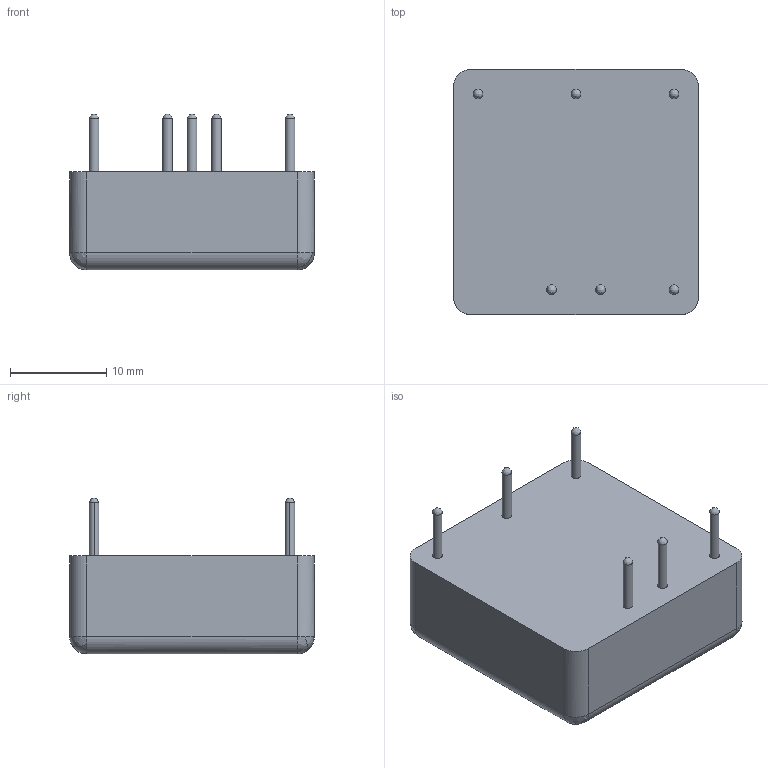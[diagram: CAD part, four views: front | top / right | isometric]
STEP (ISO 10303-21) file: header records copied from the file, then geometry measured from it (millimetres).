
FILE_DESCRIPTION (( 'STEP AP214' ), '1' );
FILE_NAME ('JWK10.STEP', '2016-08-22T10:28:33', ( 'XP Power' ), ( '' ), 'SwSTEP 2.0', 'SolidWorks 2016', '' );
FILE_SCHEMA (( 'AUTOMOTIVE_DESIGN' ));
Length unit declared in the file: millimetre
Products named in the file (1): JWK10
Bounding box: 25.4 x 25.4 x 16.16 mm (x, y, z)
Surface area: 2316.5 mm2 (no closed solid volume)
Topology: 0 solids, 1 shells, 40 faces, 108 edges, 56 vertices
Faces by surface type: cylinder 20, bspline 14, plane 6
Entity records: 1301 total; most frequent: CARTESIAN_POINT 395, DIRECTION 198, ORIENTED_EDGE 176, EDGE_CURVE 88, AXIS2_PLACEMENT_3D 83, VERTEX_POINT 56, CIRCLE 56, EDGE_LOOP 46
